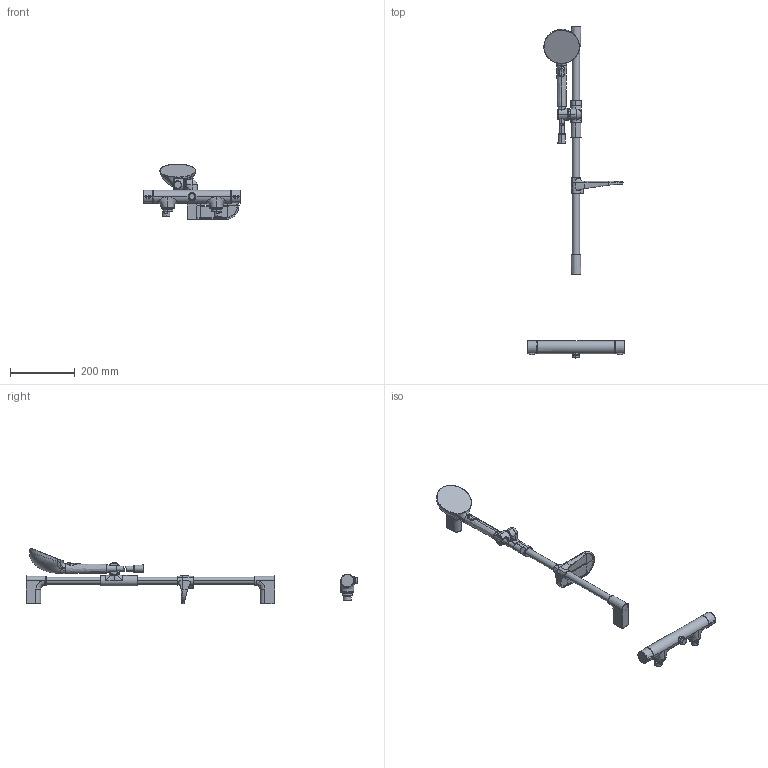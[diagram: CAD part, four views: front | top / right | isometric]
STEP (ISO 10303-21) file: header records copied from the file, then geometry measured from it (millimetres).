
FILE_DESCRIPTION (( 'STEP AP203' ), '1' );
FILE_NAME ('4759(2024).STEP', '2024-04-23T04:43:07', ( '' ), ( '' ), 'SwSTEP 2.0', 'SolidWorks 2016', '' );
FILE_SCHEMA (( 'CONFIG_CONTROL_DESIGN' ));
Products named in the file (1): 4759(2024)
Bounding box: 299.88 x 1023.47 x 172.17 mm (x, y, z)
Volume: 1692585.6 mm3; surface area: 258599.5 mm2
Topology: 21 solids, 21 shells, 613 faces, 1472 edges, 902 vertices
Faces by surface type: bspline 322, plane 100, cylinder 97, cone 57, sphere 22, torus 15
Entity records: 68390 total; most frequent: CARTESIAN_POINT 56448, ORIENTED_EDGE 2918, DIRECTION 1849, EDGE_CURVE 1459, VERTEX_POINT 902, AXIS2_PLACEMENT_3D 803, EDGE_LOOP 629, B_SPLINE_CURVE_WITH_KNOTS 620
